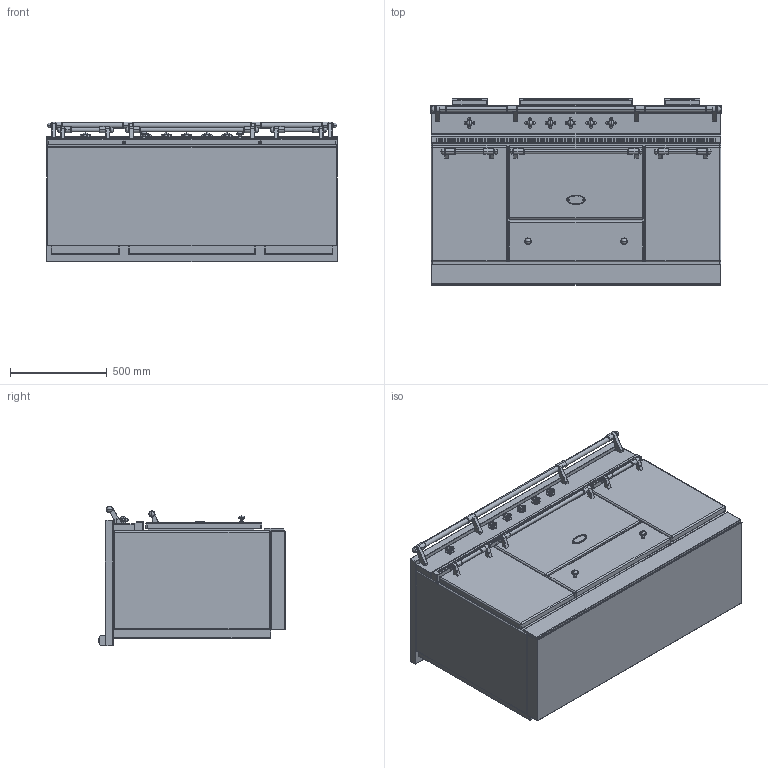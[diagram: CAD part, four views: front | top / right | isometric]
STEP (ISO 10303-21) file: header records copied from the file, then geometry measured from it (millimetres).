
FILE_DESCRIPTION((''),'2;1');
FILE_NAME('LVTR1542__ASM','2021-12-02T15:25:28',('r.avril'),(''),'CREO PARAMETRIC BY PTC INC, 2017260','CREO PARAMETRIC BY PTC INC, 2017260','');
FILE_SCHEMA(('AP203_CONFIGURATION_CONTROLLED_3D_DESIGN_OF_MECHANICAL_PARTS_AND_ASSEMBLIES_MIM_LF { 1 0 10303 403 2 1 2 }'));
Products named in the file (21): BASE_EXPORT_FONTENAY_LVTR1541; 65650003; 65650004; 65650006; 65650007; 6531940; 6531941; 6531943; 65049009; 65650001; 6538399; 1931942; 65080022_AF0; 6531942_ASM; BASE_EXPORT_CITEAUX_LVTR1542_ASM; TABLE_1505_INDUCTION_ET_VTR; 65052002; CHEMINEE_2020_LG182_EXPORT_STEP; CHEMINEE_2020_LG582_EXPORT_STEP; TABLE_1505_VTR_ASM; LVTR1542__ASM
Assembly tree (31 placements, depth 4):
  LVTR1542__ASM
    BASE_EXPORT_CITEAUX_LVTR1542_ASM
      BASE_EXPORT_FONTENAY_LVTR1541
      65650003
      65650004
      65650006
      65650007
      6531940  x3
      6531941  x3
      6531943  x2
      65049009
      65650001
      6531942_ASM  x6
        6538399
        1931942
        65080022_AF0
    TABLE_1505_VTR_ASM
      TABLE_1505_INDUCTION_ET_VTR
      65052002
      CHEMINEE_2020_LG182_EXPORT_STEP  x2
      CHEMINEE_2020_LG582_EXPORT_STEP
Bounding box: 1505 x 963 x 724 mm (x, y, z)
Volume: 555259393.5 mm3; surface area: 13465867 mm2
Topology: 46 solids, 58 shells, 4865 faces, 13038 edges, 8320 vertices
Faces by surface type: plane 2421, cylinder 1658, torus 234, sphere 178, extrusion 170, bspline 100, cone 88, revolution 16
Entity records: 107928 total; most frequent: CARTESIAN_POINT 24217, ORIENTED_EDGE 15024, DIRECTION 14948, EDGE_CURVE 7526, AXIS2_PLACEMENT_3D 5018, VERTEX_POINT 4847, VECTOR 4844, LINE 4814
